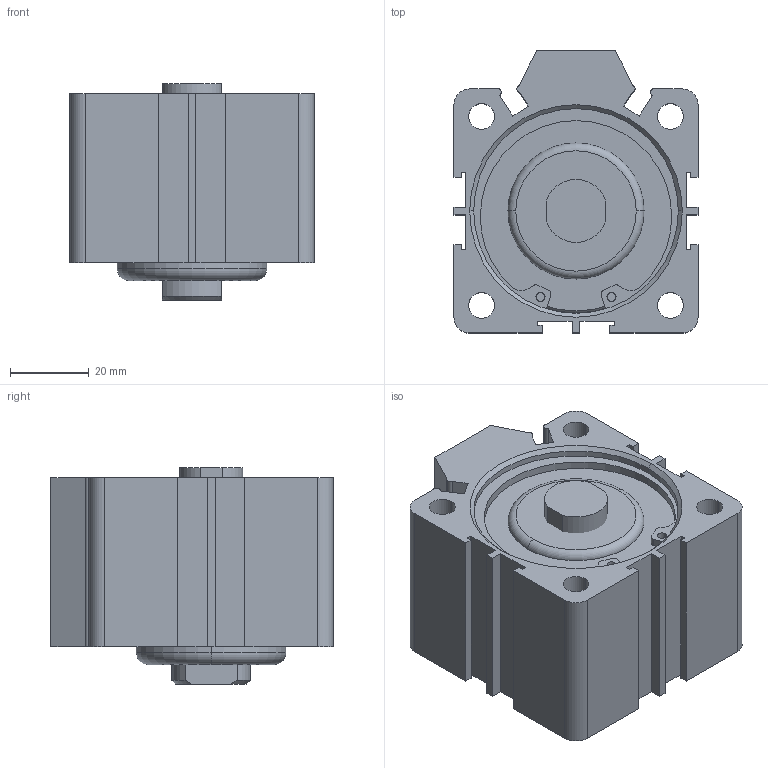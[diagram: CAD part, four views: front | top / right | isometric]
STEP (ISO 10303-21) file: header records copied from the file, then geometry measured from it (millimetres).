
FILE_DESCRIPTION (( 'STEP AP214' ), '1' );
FILE_NAME ('SDA_N_50_5_WEB.STEP', '2020-08-24T16:50:27', ( '' ), ( '' ), 'SwSTEP 2.0', 'SolidWorks 2018', '' );
FILE_SCHEMA (( 'AUTOMOTIVE_DESIGN' ));
Length unit declared in the file: millimetre
Products named in the file (6): SDA_N_50_5_WEB; SDA_N_50_ARKAKAPAK; basic internal retaining ring_am_B27.7M - 3BM1-52; SDA 50_BORU_WEB; SDA_N_50_MIL_WEB; SDA_N_50_BOGAZ_BURCU_VER_2
Assembly tree (6 placements, depth 2):
  SDA_N_50_5_WEB
    SDA 50_BORU_WEB
    SDA_N_50_ARKAKAPAK
    SDA_N_50_MIL_WEB
    SDA_N_50_BOGAZ_BURCU_VER_2
    basic internal retaining ring_am_B27.7M - 3BM1-52  x2
Bounding box: 62 x 71.7 x 55 mm (x, y, z)
Volume: 111076.2 mm3; surface area: 50921.2 mm2
Topology: 6 solids, 6 shells, 320 faces, 848 edges, 552 vertices
Faces by surface type: plane 136, cylinder 106, bspline 39, cone 35, torus 4
Entity records: 12158 total; most frequent: CARTESIAN_POINT 3768, ORIENTED_EDGE 1554, DIRECTION 1424, EDGE_CURVE 777, VERTEX_POINT 506, AXIS2_PLACEMENT_3D 482, VECTOR 460, LINE 460
